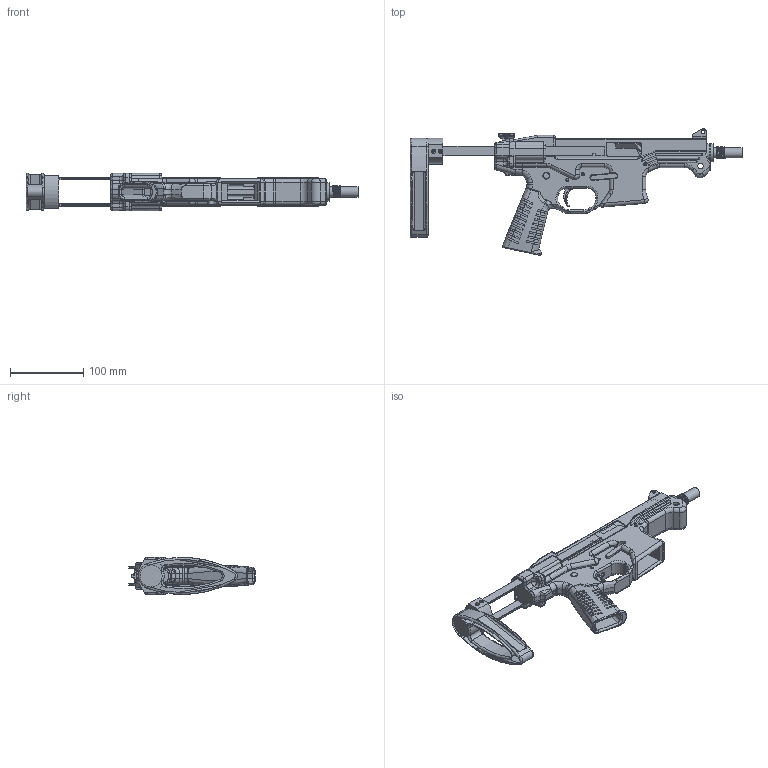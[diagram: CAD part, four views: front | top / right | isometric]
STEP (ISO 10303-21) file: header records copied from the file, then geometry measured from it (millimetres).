
FILE_DESCRIPTION(/* description */ (''),/* implementation_level */ '2;1');
FILE_NAME(/* name */ 'SVTR',/* author */ ('Logsleeve'),/* organization */ ('AWCY?'),/* authorisation */ '');
FILE_SCHEMA (('AUTOMOTIVE_DESIGN { 1 0 10303 214 3 1 1 }'));
Products named in the file (30): SVTR; SVTR_Receiver; VMAC9_Upper v2; SVTR_StockCover v3; SVTR_StockButton v2; Component2; SVTR_StockBar v2; SVTR_StockRail v4; SVTR_StockRail v4 (1); SVTR_TailhookAdapter v2; VMAC9_BCG v1; Ender_BedSpring v1; AR15_MagRelease v1; Magazine Catch Bar.step; Magazine Catch Button.step; Magazine Catch Spring.step; AR15_FCG v2; AR-15 Fire Control Group Full Auto.step; Fire Control Group.step; Hammer Assembly.step; Hammer Pin.step; Trigger Assembly.step; Trigger Disconnector.step; Trigger.step; Trigger Pin.step; Fire Selector Assembly.step; Fire Selector .step; Hammer.step; Tailhook v2; SVTR_FeedRamp v3
Assembly tree (30 placements, depth 6):
  SVTR
    SVTR_Receiver
    VMAC9_Upper v2
    SVTR_StockCover v3
    SVTR_StockButton v2
      Component2
    SVTR_StockBar v2
    SVTR_StockRail v4
    SVTR_StockRail v4 (1)
    SVTR_TailhookAdapter v2
    VMAC9_BCG v1
    Ender_BedSpring v1
    AR15_MagRelease v1
      Magazine Catch Bar.step
      Magazine Catch Button.step
      Magazine Catch Spring.step
    AR15_FCG v2
      AR-15 Fire Control Group Full Auto.step
        Fire Control Group.step
          Hammer Assembly.step
            Hammer.step
            Hammer Pin.step
          Trigger Assembly.step
            Trigger Disconnector.step
            Trigger.step
            Trigger Pin.step
          Fire Selector Assembly.step
            Fire Selector .step
      Hammer.step
    Tailhook v2
    SVTR_FeedRamp v3
Bounding box: 454.6 x 173.57 x 50.8 mm (x, y, z)
Volume: 600256.8 mm3; surface area: 258838.1 mm2
Topology: 23 solids, 23 shells, 2909 faces, 7829 edges, 4965 vertices
Faces by surface type: plane 1132, bspline 782, cylinder 677, torus 192, cone 65, sphere 61
Full cylindrical faces by diameter (mm): 2.5 x4, 2.7 x1, 2.946 x2, 3.023 x2, 3.4 x2, 3.5 x3, 3.556 x2, 3.858 x14, 3.912 x8, 3.962 x5, 4.039 x1, 4.064 x4, 4.216 x1, 4.318 x2, 4.4 x3, 4.5 x4, 4.572 x2, 4.712 x1, 4.727 x23, 5.08 x3, 5.182 x1, 5.715 x3, 5.842 x4, 6.35 x2, 7.62 x1, 7.874 x2, 7.95 x1, 7.986 x2, 8.128 x3, 8.255 x1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
Entity records: 148230 total; most frequent: CARTESIAN_POINT 82597, ORIENTED_EDGE 14928, DIRECTION 11289, EDGE_CURVE 7464, VERTEX_POINT 4775, AXIS2_PLACEMENT_3D 3814, LINE 3661, VECTOR 3661
